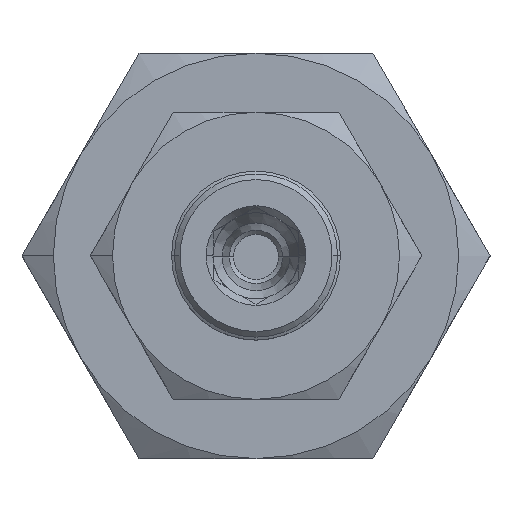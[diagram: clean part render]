
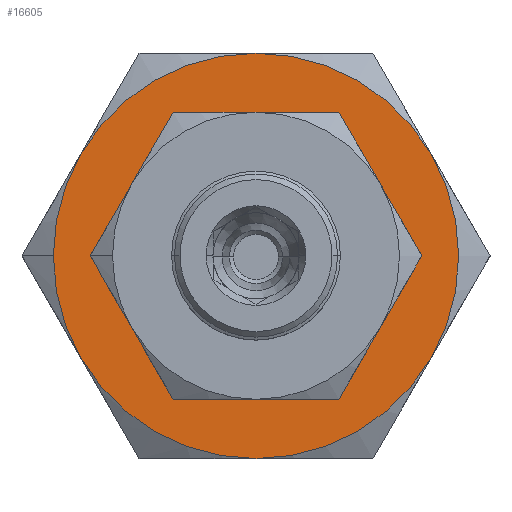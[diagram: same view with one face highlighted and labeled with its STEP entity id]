
A CAD part, top view. The second image highlights one B-rep face of the part: STEP entity #16605.
In plain terms, the highlighted planar face has unit normal (0, 0, 1).
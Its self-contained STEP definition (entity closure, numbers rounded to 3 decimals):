
#197 = DIRECTION ( 'NONE',  ( -1., 0., 0. ) ) ;
#330 = DIRECTION ( 'NONE',  ( 0., 0., -1. ) ) ;
#773 = CARTESIAN_POINT ( 'NONE',  ( 0., 0., 4.8 ) ) ;
#993 = ORIENTED_EDGE ( 'NONE', *, *, #13103, .F. ) ;
#1103 = VERTEX_POINT ( 'NONE', #13390 ) ;
#1942 = DIRECTION ( 'NONE',  ( 0., 0., -1. ) ) ;
#2048 = AXIS2_PLACEMENT_3D ( 'NONE', #12907, #4053, #14386 ) ;
#2251 = DIRECTION ( 'NONE',  ( -1., 0., 0. ) ) ;
#2356 = EDGE_CURVE ( 'NONE', #3010, #16284, #18293, .T. ) ;
#2623 = CARTESIAN_POINT ( 'NONE',  ( 10.392, -6., 4.8 ) ) ;
#2819 = EDGE_CURVE ( 'NONE', #3814, #4356, #11090, .T. ) ;
#2912 = ORIENTED_EDGE ( 'NONE', *, *, #3086, .F. ) ;
#3010 = VERTEX_POINT ( 'NONE', #3292 ) ;
#3060 = CARTESIAN_POINT ( 'NONE',  ( 10.392, 6., 4.8 ) ) ;
#3086 = EDGE_CURVE ( 'NONE', #16284, #9441, #17788, .T. ) ;
#3292 = CARTESIAN_POINT ( 'NONE',  ( -12., 0., 4.8 ) ) ;
#3498 = EDGE_LOOP ( 'NONE', ( #2912, #7843, #14982, #993, #14236, #13167, #11279 ) ) ;
#3773 = AXIS2_PLACEMENT_3D ( 'NONE', #9123, #330, #10614 ) ;
#3814 = VERTEX_POINT ( 'NONE', #7564 ) ;
#4053 = DIRECTION ( 'NONE',  ( 0., 0., -1. ) ) ;
#4356 = VERTEX_POINT ( 'NONE', #17816 ) ;
#4721 = DIRECTION ( 'NONE',  ( 0., 0., -1. ) ) ;
#4952 = CARTESIAN_POINT ( 'NONE',  ( 0., 0., 4.8 ) ) ;
#4961 = AXIS2_PLACEMENT_3D ( 'NONE', #4952, #15289, #6454 ) ;
#5236 = CIRCLE ( 'NONE', #12109, 12. ) ;
#5330 = AXIS2_PLACEMENT_3D ( 'NONE', #8522, #18881, #10011 ) ;
#5411 = CARTESIAN_POINT ( 'NONE',  ( 0., 0., 4.8 ) ) ;
#5419 = EDGE_CURVE ( 'NONE', #15275, #14314, #17814, .T. ) ;
#5733 = FACE_BOUND ( 'NONE', #6533, .T. ) ;
#6454 = DIRECTION ( 'NONE',  ( -1., 0., 0. ) ) ;
#6533 = EDGE_LOOP ( 'NONE', ( #19106, #12989 ) ) ;
#6787 = EDGE_CURVE ( 'NONE', #1103, #3010, #13796, .T. ) ;
#6893 = DIRECTION ( 'NONE',  ( -1., 0., 0. ) ) ;
#7564 = CARTESIAN_POINT ( 'NONE',  ( 5., 0., 4.8 ) ) ;
#7569 = CIRCLE ( 'NONE', #11482, 12. ) ;
#7579 = AXIS2_PLACEMENT_3D ( 'NONE', #8060, #18393, #9533 ) ;
#7843 = ORIENTED_EDGE ( 'NONE', *, *, #2356, .F. ) ;
#8060 = CARTESIAN_POINT ( 'NONE',  ( 0., 0., 4.8 ) ) ;
#8522 = CARTESIAN_POINT ( 'NONE',  ( 0., 0., 4.8 ) ) ;
#8980 = DIRECTION ( 'NONE',  ( 0., 0., -1. ) ) ;
#9123 = CARTESIAN_POINT ( 'NONE',  ( 0., 0., 4.8 ) ) ;
#9441 = VERTEX_POINT ( 'NONE', #17985 ) ;
#9533 = DIRECTION ( 'NONE',  ( -1., 0., 0. ) ) ;
#9673 = FACE_OUTER_BOUND ( 'NONE', #3498, .T. ) ;
#9999 = CIRCLE ( 'NONE', #14974, 5. ) ;
#10011 = DIRECTION ( 'NONE',  ( -1., 0., 0. ) ) ;
#10338 = VERTEX_POINT ( 'NONE', #3060 ) ;
#10614 = DIRECTION ( 'NONE',  ( -1., 0., 0. ) ) ;
#10717 = CARTESIAN_POINT ( 'NONE',  ( 0., 0., 4.8 ) ) ;
#10751 = AXIS2_PLACEMENT_3D ( 'NONE', #17847, #8980, #197 ) ;
#11062 = DIRECTION ( 'NONE',  ( 0., 0., -1. ) ) ;
#11090 = CIRCLE ( 'NONE', #5330, 5. ) ;
#11279 = ORIENTED_EDGE ( 'NONE', *, *, #19024, .F. ) ;
#11482 = AXIS2_PLACEMENT_3D ( 'NONE', #10717, #1942, #12200 ) ;
#11898 = PLANE ( 'NONE',  #10751 ) ;
#11938 = CARTESIAN_POINT ( 'NONE',  ( 0., -12., 4.8 ) ) ;
#12109 = AXIS2_PLACEMENT_3D ( 'NONE', #5411, #15736, #6893 ) ;
#12200 = DIRECTION ( 'NONE',  ( -1., 0., 0. ) ) ;
#12907 = CARTESIAN_POINT ( 'NONE',  ( 0., 0., 4.8 ) ) ;
#12989 = ORIENTED_EDGE ( 'NONE', *, *, #2819, .T. ) ;
#13103 = EDGE_CURVE ( 'NONE', #14314, #1103, #7569, .T. ) ;
#13167 = ORIENTED_EDGE ( 'NONE', *, *, #17779, .F. ) ;
#13390 = CARTESIAN_POINT ( 'NONE',  ( -10.392, -6., 4.8 ) ) ;
#13575 = CARTESIAN_POINT ( 'NONE',  ( 0., 0., 4.8 ) ) ;
#13796 = CIRCLE ( 'NONE', #3773, 12. ) ;
#14236 = ORIENTED_EDGE ( 'NONE', *, *, #5419, .F. ) ;
#14314 = VERTEX_POINT ( 'NONE', #11938 ) ;
#14340 = EDGE_CURVE ( 'NONE', #4356, #3814, #9999, .T. ) ;
#14386 = DIRECTION ( 'NONE',  ( -1., 0., 0. ) ) ;
#14974 = AXIS2_PLACEMENT_3D ( 'NONE', #13575, #4721, #15059 ) ;
#14982 = ORIENTED_EDGE ( 'NONE', *, *, #6787, .F. ) ;
#15059 = DIRECTION ( 'NONE',  ( -1., 0., 0. ) ) ;
#15275 = VERTEX_POINT ( 'NONE', #2623 ) ;
#15289 = DIRECTION ( 'NONE',  ( 0., 0., -1. ) ) ;
#15736 = DIRECTION ( 'NONE',  ( 0., 0., -1. ) ) ;
#15857 = AXIS2_PLACEMENT_3D ( 'NONE', #773, #11062, #2251 ) ;
#16284 = VERTEX_POINT ( 'NONE', #16773 ) ;
#16605 = ADVANCED_FACE ( 'NONE', ( #5733, #9673 ), #11898, .F. ) ;
#16773 = CARTESIAN_POINT ( 'NONE',  ( -10.392, 6., 4.8 ) ) ;
#17002 = CIRCLE ( 'NONE', #7579, 12. ) ;
#17779 = EDGE_CURVE ( 'NONE', #10338, #15275, #17002, .T. ) ;
#17788 = CIRCLE ( 'NONE', #4961, 12. ) ;
#17814 = CIRCLE ( 'NONE', #2048, 12. ) ;
#17816 = CARTESIAN_POINT ( 'NONE',  ( -5., 0., 4.8 ) ) ;
#17847 = CARTESIAN_POINT ( 'NONE',  ( 13.856, 0., 4.8 ) ) ;
#17985 = CARTESIAN_POINT ( 'NONE',  ( 0., 12., 4.8 ) ) ;
#18293 = CIRCLE ( 'NONE', #15857, 12. ) ;
#18393 = DIRECTION ( 'NONE',  ( 0., 0., -1. ) ) ;
#18881 = DIRECTION ( 'NONE',  ( 0., 0., -1. ) ) ;
#19024 = EDGE_CURVE ( 'NONE', #9441, #10338, #5236, .T. ) ;
#19106 = ORIENTED_EDGE ( 'NONE', *, *, #14340, .T. ) ;
